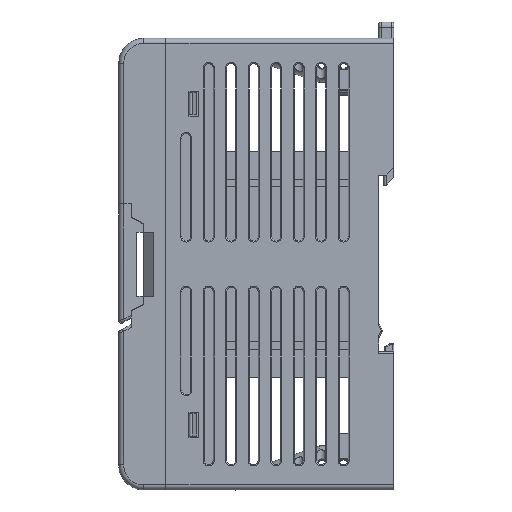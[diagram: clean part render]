
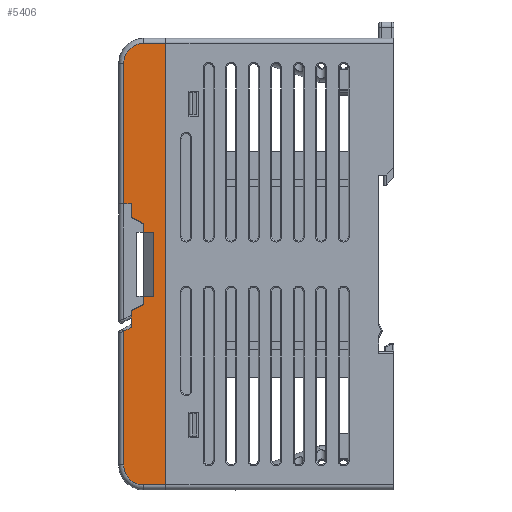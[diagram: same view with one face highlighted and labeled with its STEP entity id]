
A CAD part, left-side view. The second image highlights one B-rep face of the part: STEP entity #5406.
In plain terms, the highlighted planar face has unit normal (-1, 0, 0).
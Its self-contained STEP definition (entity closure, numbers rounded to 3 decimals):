
#121=DIRECTION('',(0.,-1.,0.));
#122=VECTOR('',#121,2.1);
#123=CARTESIAN_POINT('',(-12.5,4.5,-6.4));
#124=LINE('',#123,#122);
#128=DIRECTION('',(0.,0.,1.));
#129=VECTOR('',#128,12.8);
#130=CARTESIAN_POINT('',(-12.5,2.4,-6.4));
#131=LINE('',#130,#129);
#135=DIRECTION('',(0.,1.,0.));
#136=VECTOR('',#135,2.1);
#137=CARTESIAN_POINT('',(-12.5,2.4,6.4));
#138=LINE('',#137,#136);
#142=DIRECTION('',(0.,0.,1.));
#143=VECTOR('',#142,1.7);
#144=CARTESIAN_POINT('',(-12.5,4.5,6.4));
#145=LINE('',#144,#143);
#149=DIRECTION('',(0.,0.894,0.447));
#150=VECTOR('',#149,2.683);
#151=CARTESIAN_POINT('',(-12.5,4.5,8.1));
#152=LINE('',#151,#150);
#156=DIRECTION('',(0.,0.,1.));
#157=VECTOR('',#156,2.7);
#158=CARTESIAN_POINT('',(-12.5,6.9,9.3));
#159=LINE('',#158,#157);
#163=DIRECTION('',(0.,1.,0.));
#164=VECTOR('',#163,1.5);
#165=CARTESIAN_POINT('',(-12.5,6.9,12.));
#166=LINE('',#165,#164);
#170=DIRECTION('',(0.,0.,1.));
#171=VECTOR('',#170,28.);
#172=CARTESIAN_POINT('',(-12.5,8.4,12.));
#173=LINE('',#172,#171);
#177=CARTESIAN_POINT('',(-12.5,4.4,40.));
#178=DIRECTION('',(1.,0.,0.));
#179=DIRECTION('',(0.,1.,0.));
#180=AXIS2_PLACEMENT_3D('',#177,#178,#179);
#185=DIRECTION('',(0.,-1.,0.));
#186=VECTOR('',#185,4.4);
#187=CARTESIAN_POINT('',(-12.5,4.4,44.));
#188=LINE('',#187,#186);
#192=DIRECTION('',(0.,-1.,0.));
#193=VECTOR('',#192,4.4);
#194=CARTESIAN_POINT('',(-12.5,4.4,-44.));
#195=LINE('',#194,#193);
#199=CARTESIAN_POINT('',(-12.5,4.4,-40.));
#200=DIRECTION('',(-1.,0.,0.));
#201=DIRECTION('',(0.,1.,0.));
#202=AXIS2_PLACEMENT_3D('',#199,#200,#201);
#207=DIRECTION('',(0.,0.,-1.));
#208=VECTOR('',#207,26.587);
#209=CARTESIAN_POINT('',(-12.5,8.4,-13.413));
#210=LINE('',#209,#208);
#214=DIRECTION('',(0.,0.873,-0.489));
#215=VECTOR('',#214,1.719);
#216=CARTESIAN_POINT('',(-12.5,6.9,-12.573));
#217=LINE('',#216,#215);
#221=DIRECTION('',(0.,-0.894,0.447));
#222=VECTOR('',#221,2.683);
#223=CARTESIAN_POINT('',(-12.5,6.9,-9.3));
#224=LINE('',#223,#222);
#228=DIRECTION('',(0.,0.,1.));
#229=VECTOR('',#228,1.7);
#230=CARTESIAN_POINT('',(-12.5,4.5,-8.1));
#231=LINE('',#230,#229);
#1491=DIRECTION('',(0.,0.,1.));
#1492=VECTOR('',#1491,88.);
#1493=CARTESIAN_POINT('',(-12.5,0.,-44.));
#1494=LINE('',#1493,#1492);
#2109=DIRECTION('',(0.,0.,-1.));
#2110=VECTOR('',#2109,3.273);
#2111=CARTESIAN_POINT('',(-12.5,6.9,-9.3));
#2112=LINE('',#2111,#2110);
#4489=CARTESIAN_POINT('',(-12.5,6.9,9.3));
#4490=CARTESIAN_POINT('',(-12.5,6.9,12.));
#4491=VERTEX_POINT('',#4489);
#4492=VERTEX_POINT('',#4490);
#4493=CARTESIAN_POINT('',(-12.5,4.5,8.1));
#4494=VERTEX_POINT('',#4493);
#4495=CARTESIAN_POINT('',(-12.5,6.9,-9.3));
#4496=CARTESIAN_POINT('',(-12.5,4.5,-8.1));
#4497=VERTEX_POINT('',#4495);
#4498=VERTEX_POINT('',#4496);
#4755=CARTESIAN_POINT('',(-12.5,6.9,-12.573));
#4756=CARTESIAN_POINT('',(-12.5,8.4,
-13.413));
#4757=VERTEX_POINT('',#4755);
#4758=VERTEX_POINT('',#4756);
#4791=CARTESIAN_POINT('',(-12.5,8.4,12.));
#4792=CARTESIAN_POINT('',(-12.5,8.4,40.));
#4793=VERTEX_POINT('',#4791);
#4794=VERTEX_POINT('',#4792);
#4807=CARTESIAN_POINT('',(-12.5,0.,-44.));
#4809=VERTEX_POINT('',#4807);
#4813=CARTESIAN_POINT('',(-12.5,4.4,-44.));
#4814=VERTEX_POINT('',#4813);
#4815=CARTESIAN_POINT('',(-12.5,8.4,-40.));
#4816=VERTEX_POINT('',#4815);
#4820=CARTESIAN_POINT('',(-12.5,0.,44.));
#4822=VERTEX_POINT('',#4820);
#4823=CARTESIAN_POINT('',(-12.5,4.4,44.));
#4824=VERTEX_POINT('',#4823);
#5077=CARTESIAN_POINT('',(-12.5,4.5,-6.4));
#5078=CARTESIAN_POINT('',(-12.5,2.4,-6.4));
#5079=VERTEX_POINT('',#5077);
#5080=VERTEX_POINT('',#5078);
#5081=CARTESIAN_POINT('',(-12.5,2.4,6.4));
#5082=VERTEX_POINT('',#5081);
#5083=CARTESIAN_POINT('',(-12.5,4.5,6.4));
#5084=VERTEX_POINT('',#5083);
#5364=CARTESIAN_POINT('',(-12.5,0.,-45.));
#5365=DIRECTION('',(-1.,0.,0.));
#5366=DIRECTION('',(0.,0.,1.));
#5367=AXIS2_PLACEMENT_3D('',#5364,#5365,#5366);
#5368=PLANE('',#5367);
#5370=ORIENTED_EDGE('',*,*,#5369,.T.);
#5372=ORIENTED_EDGE('',*,*,#5371,.T.);
#5374=ORIENTED_EDGE('',*,*,#5373,.T.);
#5376=ORIENTED_EDGE('',*,*,#5375,.T.);
#5378=ORIENTED_EDGE('',*,*,#5377,.T.);
#5380=ORIENTED_EDGE('',*,*,#5379,.T.);
#5382=ORIENTED_EDGE('',*,*,#5381,.T.);
#5383=ORIENTED_EDGE('',*,*,#5354,.T.);
#5385=ORIENTED_EDGE('',*,*,#5384,.T.);
#5387=ORIENTED_EDGE('',*,*,#5386,.T.);
#5389=ORIENTED_EDGE('',*,*,#5388,.F.);
#5391=ORIENTED_EDGE('',*,*,#5390,.F.);
#5393=ORIENTED_EDGE('',*,*,#5392,.F.);
#5395=ORIENTED_EDGE('',*,*,#5394,.F.);
#5397=ORIENTED_EDGE('',*,*,#5396,.F.);
#5399=ORIENTED_EDGE('',*,*,#5398,.F.);
#5401=ORIENTED_EDGE('',*,*,#5400,.T.);
#5403=ORIENTED_EDGE('',*,*,#5402,.T.);
#5404=EDGE_LOOP('',(#5370,#5372,#5374,#5376,#5378,#5380,#5382,#5383,#5385,#5387,
#5389,#5391,#5393,#5395,#5397,#5399,#5401,#5403));
#5405=FACE_OUTER_BOUND('',#5404,.F.);
#5406=ADVANCED_FACE('',(#5405),#5368,.T.);
#181=CIRCLE('',#180,4.);
#203=CIRCLE('',#202,4.);
#5354=EDGE_CURVE('',#4793,#4794,#173,.T.);
#5369=EDGE_CURVE('',#5079,#5080,#124,.T.);
#5371=EDGE_CURVE('',#5080,#5082,#131,.T.);
#5373=EDGE_CURVE('',#5082,#5084,#138,.T.);
#5375=EDGE_CURVE('',#5084,#4494,#145,.T.);
#5377=EDGE_CURVE('',#4494,#4491,#152,.T.);
#5379=EDGE_CURVE('',#4491,#4492,#159,.T.);
#5381=EDGE_CURVE('',#4492,#4793,#166,.T.);
#5384=EDGE_CURVE('',#4794,#4824,#181,.T.);
#5386=EDGE_CURVE('',#4824,#4822,#188,.T.);
#5388=EDGE_CURVE('',#4809,#4822,#1494,.T.);
#5390=EDGE_CURVE('',#4814,#4809,#195,.T.);
#5392=EDGE_CURVE('',#4816,#4814,#203,.T.);
#5394=EDGE_CURVE('',#4758,#4816,#210,.T.);
#5396=EDGE_CURVE('',#4757,#4758,#217,.T.);
#5398=EDGE_CURVE('',#4497,#4757,#2112,.T.);
#5400=EDGE_CURVE('',#4497,#4498,#224,.T.);
#5402=EDGE_CURVE('',#4498,#5079,#231,.T.);
